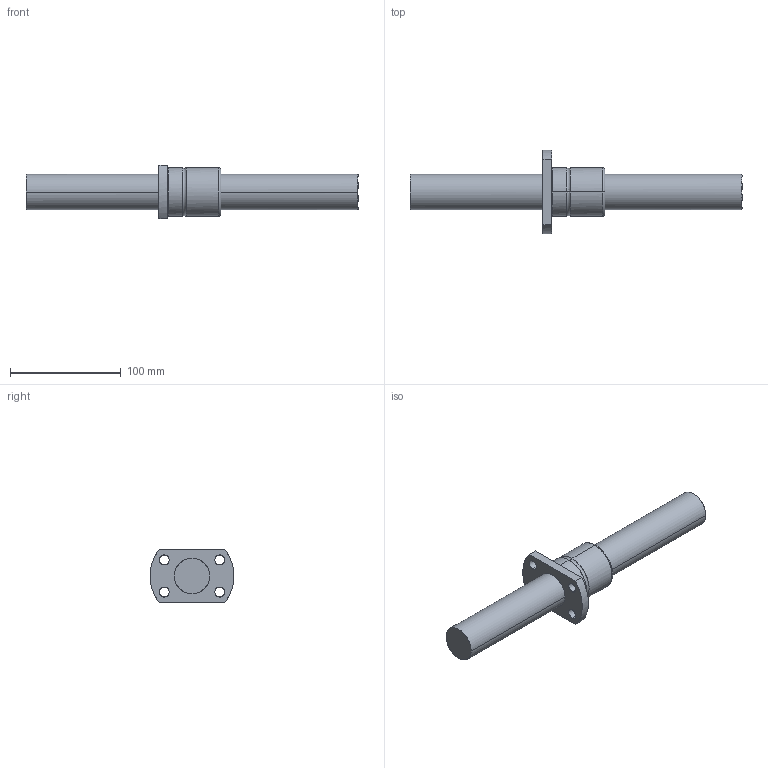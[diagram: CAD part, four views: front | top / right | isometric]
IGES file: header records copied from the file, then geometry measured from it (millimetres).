
Global section: file name: No Iges File Name specified; native system: AutoDesk Inventor R10; preprocessor: AutoDesk Inventor Iges Exporter R10; author: No Author specified; organization: No Organization specified; date: 20101224.154300; units: millimetre
Bounding box: 300 x 75.87 x 48 mm (x, y, z)
Surface area: 51301.5 mm2 (no closed solid volume)
Topology: 0 solids, 0 shells, 33 faces, 240 edges, 240 vertices
Faces by surface type: bspline 33
